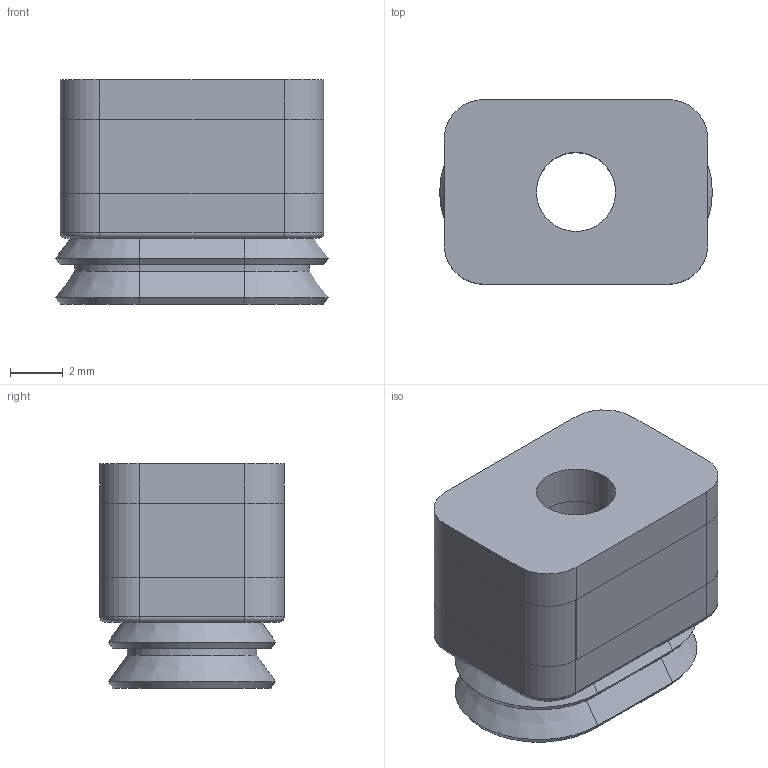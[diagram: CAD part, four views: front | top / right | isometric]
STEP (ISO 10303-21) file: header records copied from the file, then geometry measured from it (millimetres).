
FILE_DESCRIPTION( ( 'Unknown' ), '1' );
FILE_NAME( 'C:/Documents and Settings/Leeho/官帕 拳搁/VOU 6X10.stp', 'Unknown', ( 'Unknown' ), ( 'Unknown' ), 'PSStep 10.0', 'Unknown', ' ' );
FILE_SCHEMA( ( 'automotive_design' ) );
Length unit declared in the file: millimetre
Products named in the file (2): Assem1; 6X10_STP
Bounding box: 10.35 x 7 x 8.5 mm (x, y, z)
Surface area: 819.3 mm2
Topology: 2 solids, 2 shells, 64 faces, 142 edges, 84 vertices
Faces by surface type: plane 26, cylinder 22, cone 8, torus 8
Full cylindrical faces by diameter (mm): 3 x2
Entity records: 1167 total; most frequent: DIRECTION 168, CARTESIAN_POINT 146, ORIENTED_EDGE 140, EDGE_CURVE 70, AXIS2_PLACEMENT_3D 64, VERTEX_POINT 42, LINE 40, VECTOR 40
